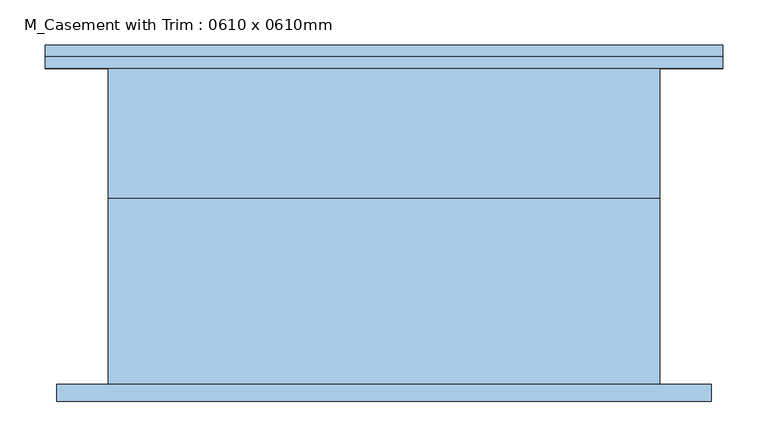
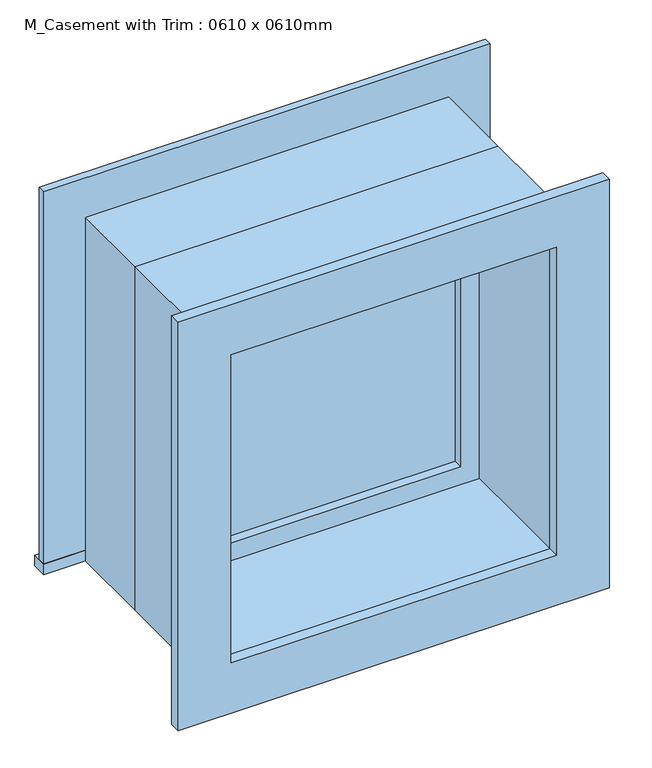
"""IFC4 building model written with IfcOpenShell, lengths in millimetres: window geometry, M_Casement with Trim : 0610 x 0610mm."""

from ifc_helpers import new_model, si_unit, frame, origin, place, context, project, spatial, polyline, outline, extrude, source, transform, mapped, element, save


def m_casement_with_trim_0610_x_0610mm_632b6733(model_context):
    return source(origin(), model_context, "Body", "SweptSolid", [
        extrude(outline(polyline([(-374.95, 200.7), (374.95, 200.7), (374.95, 175.0), (-374.95, 175.0), (-374.95, 200.7)])), frame((0.0, 0.0, 915.0), z_axis=(0.0, 0.0, 1.0), x_axis=(1.0, 0.0, 0.0)), (0.0, 0.0, 1.0), 19.05),
        extrude(outline(polyline([(1505.95, -285.95), (1505.95, 285.95), (934.05, 285.95), (934.05, 374.95), (1594.95, 374.95), (1594.95, -374.95), (934.05, -374.95), (934.05, -285.95), (1505.95, -285.95)])), frame((0.0, 175.0, 0.0), z_axis=(0.0, 1.0, 0.0), x_axis=(0.0, 0.0, 1.0)), (0.0, 0.0, 1.0), 13.0),
        extrude(outline(polyline([(1582.25, 362.25), (1582.25, -362.25), (857.75, -362.25), (857.75, 362.25), (1582.25, 362.25)]), holes=[polyline([(1493.25, 273.25), (946.75, 273.25), (946.75, -273.25), (1493.25, -273.25), (1493.25, 273.25)])]), frame((0.0, -194.0, 0.0), z_axis=(0.0, 1.0, 0.0), x_axis=(0.0, 0.0, 1.0)), (0.0, 0.0, 1.0), 19.0),
        extrude(outline(polyline([(241.5, 46.425), (-241.5, 46.425), (-241.5, 59.125), (241.5, 59.125), (241.5, 46.425)])), frame((0.0, 0.0, 978.5), z_axis=(0.0, 0.0, 1.0), x_axis=(1.0, 0.0, 0.0)), (0.0, 0.0, 1.0), 483.0),
        extrude(outline(polyline([(1505.95, -285.95), (934.05, -285.95), (934.05, 285.95), (1505.95, 285.95), (1505.95, -285.95)]), holes=[polyline([(1461.5, -241.5), (1461.5, 241.5), (978.5, 241.5), (978.5, -241.5), (1461.5, -241.5)])]), frame((0.0, 30.55, 0.0), z_axis=(0.0, 1.0, 0.0), x_axis=(0.0, 0.0, 1.0)), (0.0, 0.0, 1.0), 44.45),
        extrude(outline(polyline([(1525.0, -305.0), (915.0, -305.0), (915.0, 305.0), (1525.0, 305.0), (1525.0, -305.0)]), holes=[polyline([(1493.25, -273.25), (1493.25, 273.25), (946.75, 273.25), (946.75, -273.25), (1493.25, -273.25)])]), frame((0.0, -175.0, 0.0), z_axis=(0.0, 1.0, 0.0), x_axis=(0.0, 0.0, 1.0)), (0.0, 0.0, 1.0), 205.55),
        extrude(outline(polyline([(1525.0, 305.0), (1525.0, -305.0), (915.0, -305.0), (915.0, 305.0), (1525.0, 305.0)]), holes=[polyline([(1505.95, 285.95), (934.05, 285.95), (934.05, -285.95), (1505.95, -285.95), (1505.95, 285.95)])]), frame((0.0, 30.55, 0.0), z_axis=(0.0, 1.0, 0.0), x_axis=(0.0, 0.0, 1.0)), (0.0, 0.0, 1.0), 144.45),
    ])


if __name__ == "__main__":
    model = new_model("IFC4")
    model_context = context("Model", 3, world=origin())
    ifc_project = project(units=[si_unit("LENGTHUNIT", "METRE", prefix="MILLI")], contexts=[model_context])
    site = spatial("IfcSite", under=ifc_project)
    building = spatial("IfcBuilding", under=site)
    placement = place(None, origin())
    m_casement_with_trim_0610_x_0610mm_shape = m_casement_with_trim_0610_x_0610mm_632b6733(model_context)
    element("IfcWindow", 1, ObjectType="M_Casement with Trim : 0610 x 0610mm", at=placement, inside=building, context=model_context, shape_type="MappedRepresentation", body=[
        mapped(m_casement_with_trim_0610_x_0610mm_shape, transform((0.0, 0.0, 0.0), x_axis=(1.0, 0.0, 0.0), y_axis=(0.0, 1.0, 0.0), z_axis=(0.0, 0.0, 1.0))),
    ])
    save(model, "model.ifc")
